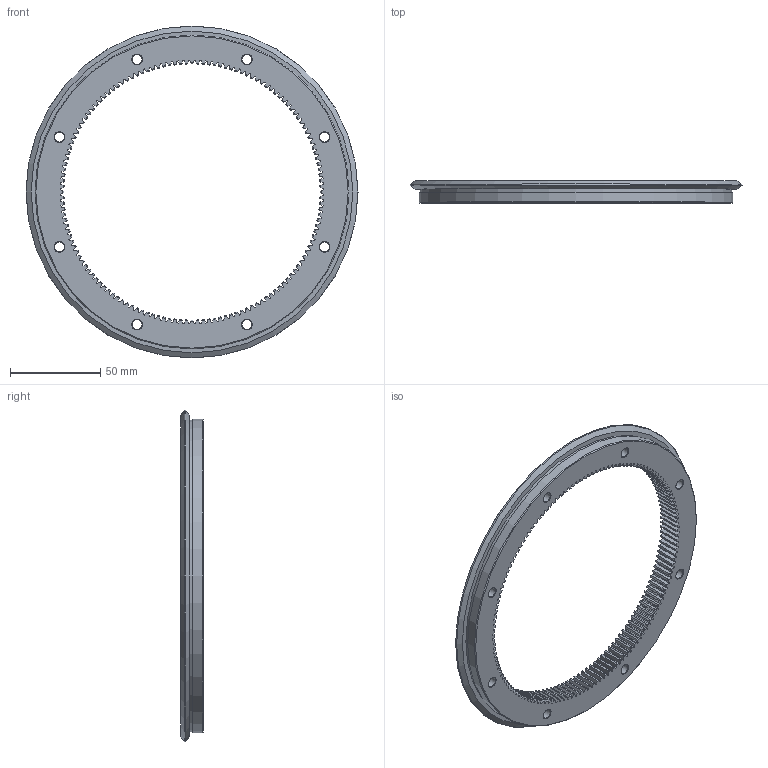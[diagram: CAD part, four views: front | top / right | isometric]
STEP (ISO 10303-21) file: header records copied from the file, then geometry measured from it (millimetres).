
FILE_DESCRIPTION( ( 'STEP AP203' ), '1' );
FILE_NAME( 'p:/temp/worker_55/temp/exporttempdir_1840_823_W8CrX/format_0/RES 184 R360 Q.stp', '2021-08-30T05:06:52', ( 'License CC BY-ND 4.0' ), ( 'CADENAS' ), ' ', 'PARTsolutions', ' ' );
FILE_SCHEMA( ( 'CONFIG_CONTROL_DESIGN' ) );
Length unit declared in the file: millimetre
Products named in the file (1): _RES 184 R360 Q
Bounding box: 183.98 x 12.25 x 183.98 mm (x, y, z)
Volume: 96341.1 mm3; surface area: 38724.6 mm2
Topology: 1 solids, 1 shells, 762 faces, 2239 edges, 1489 vertices
Faces by surface type: cylinder 306, plane 300, cone 155, torus 1
Full cylindrical faces by diameter (mm): 5.5 x8, 10 x8, 172.8 x1, 174 x1
Entity records: 25766 total; most frequent: CARTESIAN_POINT 5326, ORIENTED_EDGE 4418, DIRECTION 4216, EDGE_CURVE 2209, AXIS2_PLACEMENT_3D 1532, VERTEX_POINT 1490, LINE 1152, VECTOR 1152
